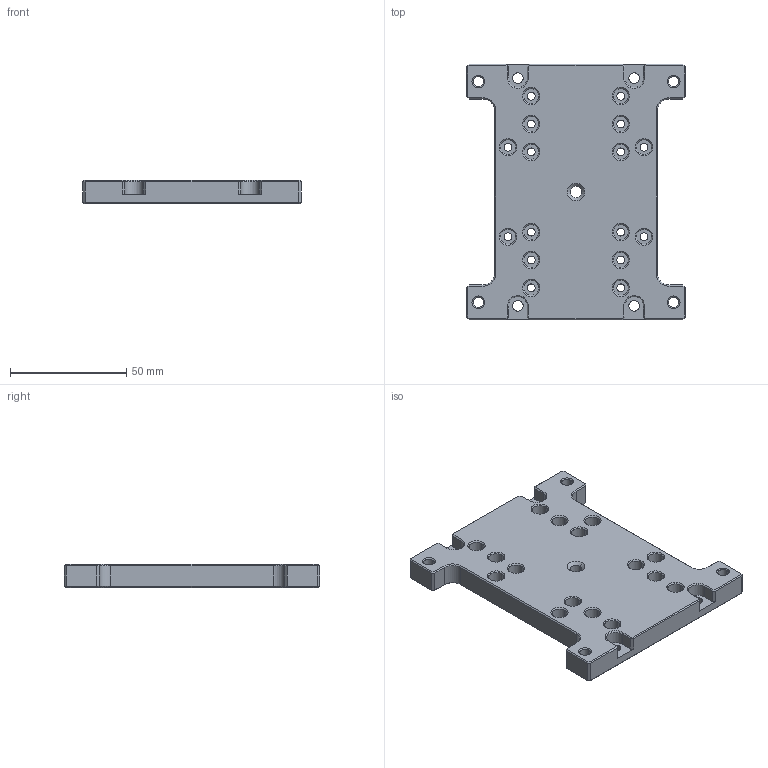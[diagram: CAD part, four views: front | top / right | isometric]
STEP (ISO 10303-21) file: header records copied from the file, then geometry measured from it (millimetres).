
FILE_DESCRIPTION (( 'STEP AP214' ), '1' );
FILE_NAME ('1000004864_BKT-INS-01.STEP', '2020-10-28T13:21:08', ( '' ), ( '' ), 'SwSTEP 2.0', 'SolidWorks 2019', '' );
FILE_SCHEMA (( 'AUTOMOTIVE_DESIGN' ));
Length unit declared in the file: millimetre
Products named in the file (1): 1000004864_BKT-INS-01
Bounding box: 94 x 110 x 10 mm (x, y, z)
Volume: 77496.7 mm3; surface area: 24203 mm2
Topology: 1 solids, 1 shells, 312 faces, 718 edges, 424 vertices
Faces by surface type: plane 118, cone 104, cylinder 90
Entity records: 8850 total; most frequent: DIRECTION 1628, CARTESIAN_POINT 1455, ORIENTED_EDGE 1436, EDGE_CURVE 718, AXIS2_PLACEMENT_3D 597, VECTOR 434, LINE 434, VERTEX_POINT 424
